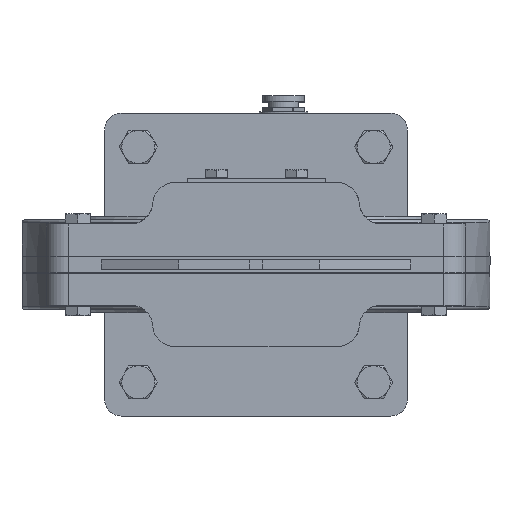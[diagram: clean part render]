
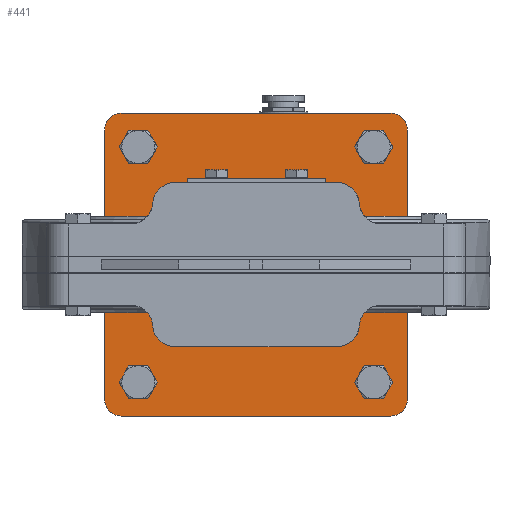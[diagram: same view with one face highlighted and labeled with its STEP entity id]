
A CAD part, front view. The second image highlights one B-rep face of the part: STEP entity #441.
In plain terms, the highlighted planar face has unit normal (0, -1, 0).
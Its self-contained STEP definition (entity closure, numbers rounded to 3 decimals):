
#441=ADVANCED_FACE('',(#14392,#14394,#14396,#14398,#14400,#14402,#14404,#14406,#14408,
#14410),#14412,.F.);
#14392=FACE_BOUND('',#14393,.T.);
#14393=EDGE_LOOP('',(#26860,#26861,#26862,#26863,#26864,#26865,#26866,#26867));
#14394=FACE_BOUND('',#14395,.T.);
#14395=EDGE_LOOP('',(#26868));
#14396=FACE_BOUND('',#14397,.T.);
#14397=EDGE_LOOP('',(#26869));
#14398=FACE_BOUND('',#14399,.T.);
#14399=EDGE_LOOP('',(#26870));
#14400=FACE_BOUND('',#14401,.T.);
#14401=EDGE_LOOP('',(#26871));
#14402=FACE_BOUND('',#14403,.T.);
#14403=EDGE_LOOP('',(#26872));
#14404=FACE_BOUND('',#14405,.T.);
#14405=EDGE_LOOP('',(#26873));
#14406=FACE_BOUND('',#14407,.T.);
#14407=EDGE_LOOP('',(#26874));
#14408=FACE_BOUND('',#14409,.T.);
#14409=EDGE_LOOP('',(#26875));
#14410=FACE_BOUND('',#14411,.T.);
#14411=EDGE_LOOP('',(#26876));
#14412=PLANE('',#14413);
#14413=AXIS2_PLACEMENT_3D('',#14414,#14415,#14416);
#14414=CARTESIAN_POINT('',(0.,687.,0.));
#14415=DIRECTION('',(0.,1.,0.));
#14416=DIRECTION('',(0.,0.,1.));
#26860=ORIENTED_EDGE('',*,*,#35363,.F.);
#26861=ORIENTED_EDGE('',*,*,#35364,.F.);
#26862=ORIENTED_EDGE('',*,*,#35365,.F.);
#26863=ORIENTED_EDGE('',*,*,#35366,.F.);
#26864=ORIENTED_EDGE('',*,*,#35367,.F.);
#26865=ORIENTED_EDGE('',*,*,#35368,.F.);
#26866=ORIENTED_EDGE('',*,*,#35369,.F.);
#26867=ORIENTED_EDGE('',*,*,#35370,.F.);
#26868=ORIENTED_EDGE('',*,*,#35371,.F.);
#26869=ORIENTED_EDGE('',*,*,#35372,.F.);
#26870=ORIENTED_EDGE('',*,*,#35373,.F.);
#26871=ORIENTED_EDGE('',*,*,#35374,.T.);
#26872=ORIENTED_EDGE('',*,*,#35375,.T.);
#26873=ORIENTED_EDGE('',*,*,#35376,.T.);
#26874=ORIENTED_EDGE('',*,*,#35377,.T.);
#26875=ORIENTED_EDGE('',*,*,#35378,.F.);
#26876=ORIENTED_EDGE('',*,*,#35379,.F.);
#35363=EDGE_CURVE('',#39224,#39225,#39226,.T.);
#35364=EDGE_CURVE('',#39227,#39224,#39228,.T.);
#35365=EDGE_CURVE('',#39229,#39227,#39230,.T.);
#35366=EDGE_CURVE('',#39231,#39229,#39232,.T.);
#35367=EDGE_CURVE('',#39233,#39231,#39234,.T.);
#35368=EDGE_CURVE('',#39235,#39233,#39236,.T.);
#35369=EDGE_CURVE('',#39237,#39235,#39238,.T.);
#35370=EDGE_CURVE('',#39225,#39237,#39239,.T.);
#35371=EDGE_CURVE('',#39240,#39240,#39241,.T.);
#35372=EDGE_CURVE('',#39242,#39242,#39243,.F.);
#35373=EDGE_CURVE('',#39244,#39244,#39245,.F.);
#35374=EDGE_CURVE('',#39246,#39246,#39247,.T.);
#35375=EDGE_CURVE('',#39248,#39248,#39249,.T.);
#35376=EDGE_CURVE('',#39250,#39250,#39251,.T.);
#35377=EDGE_CURVE('',#39252,#39252,#39253,.T.);
#35378=EDGE_CURVE('',#39254,#39254,#39255,.F.);
#35379=EDGE_CURVE('',#39256,#39256,#39257,.F.);
#39224=VERTEX_POINT('',#45431);
#39225=VERTEX_POINT('',#45432);
#39226=CIRCLE('',#45433,12.25);
#39227=VERTEX_POINT('',#45437);
#39228=LINE('',#45438,#45439);
#39229=VERTEX_POINT('',#45441);
#39230=CIRCLE('',#45442,12.25);
#39231=VERTEX_POINT('',#45446);
#39232=LINE('',#45447,#45448);
#39233=VERTEX_POINT('',#45450);
#39234=CIRCLE('',#45451,12.25);
#39235=VERTEX_POINT('',#45455);
#39236=LINE('',#45456,#45457);
#39237=VERTEX_POINT('',#45459);
#39238=CIRCLE('',#45460,12.25);
#39239=LINE('',#45464,#45465);
#39240=VERTEX_POINT('',#45467);
#39241=CIRCLE('',#45468,40.);
#39242=VERTEX_POINT('',#45472);
#39243=CIRCLE('',#45473,12.);
#39244=VERTEX_POINT('',#45477);
#39245=CIRCLE('',#45478,12.);
#39246=VERTEX_POINT('',#45482);
#39247=CIRCLE('',#45483,8.);
#39248=VERTEX_POINT('',#45487);
#39249=CIRCLE('',#45488,8.);
#39250=VERTEX_POINT('',#45492);
#39251=CIRCLE('',#45493,8.);
#39252=VERTEX_POINT('',#45497);
#39253=CIRCLE('',#45498,8.);
#39254=VERTEX_POINT('',#45502);
#39255=CIRCLE('',#45503,12.);
#39256=VERTEX_POINT('',#45507);
#39257=CIRCLE('',#45508,12.);
#45431=CARTESIAN_POINT('',(-97.75,687.,-110.));
#45432=CARTESIAN_POINT('',(-110.,687.,-97.75));
#45433=AXIS2_PLACEMENT_3D('',#45434,#45435,#45436);
#45434=CARTESIAN_POINT('',(-97.75,687.,-97.75));
#45435=DIRECTION('',(0.,1.,0.));
#45436=DIRECTION('',(0.,0.,-1.));
#45437=CARTESIAN_POINT('',(97.75,687.,-110.));
#45438=CARTESIAN_POINT('',(97.75,687.,-110.));
#45439=VECTOR('',#45440,1.);
#45440=DIRECTION('',(-1.,0.,0.));
#45441=CARTESIAN_POINT('',(110.,687.,-97.75));
#45442=AXIS2_PLACEMENT_3D('',#45443,#45444,#45445);
#45443=CARTESIAN_POINT('',(97.75,687.,-97.75));
#45444=DIRECTION('',(0.,1.,0.));
#45445=DIRECTION('',(1.,0.,0.));
#45446=CARTESIAN_POINT('',(110.,687.,97.75));
#45447=CARTESIAN_POINT('',(110.,687.,97.75));
#45448=VECTOR('',#45449,1.);
#45449=DIRECTION('',(0.,0.,-1.));
#45450=CARTESIAN_POINT('',(97.75,687.,110.));
#45451=AXIS2_PLACEMENT_3D('',#45452,#45453,#45454);
#45452=CARTESIAN_POINT('',(97.75,687.,97.75));
#45453=DIRECTION('',(0.,1.,0.));
#45454=DIRECTION('',(0.,0.,1.));
#45455=CARTESIAN_POINT('',(-97.75,687.,110.));
#45456=CARTESIAN_POINT('',(-97.75,687.,110.));
#45457=VECTOR('',#45458,1.);
#45458=DIRECTION('',(1.,0.,0.));
#45459=CARTESIAN_POINT('',(-110.,687.,97.75));
#45460=AXIS2_PLACEMENT_3D('',#45461,#45462,#45463);
#45461=CARTESIAN_POINT('',(-97.75,687.,97.75));
#45462=DIRECTION('',(0.,1.,0.));
#45463=DIRECTION('',(-1.,0.,0.));
#45464=CARTESIAN_POINT('',(-110.,687.,-97.75));
#45465=VECTOR('',#45466,1.);
#45466=DIRECTION('',(0.,0.,1.));
#45467=CARTESIAN_POINT('',(0.,687.,-40.));
#45468=AXIS2_PLACEMENT_3D('',#45469,#45470,#45471);
#45469=CARTESIAN_POINT('',(0.,687.,0.));
#45470=DIRECTION('',(0.,-1.,0.));
#45471=DIRECTION('',(0.,0.,-1.));
#45472=CARTESIAN_POINT('',(-73.467,687.,85.467));
#45473=AXIS2_PLACEMENT_3D('',#45474,#45475,#45476);
#45474=CARTESIAN_POINT('',(-85.467,687.,85.467));
#45475=DIRECTION('',(0.,1.,0.));
#45476=DIRECTION('',(1.,0.,0.));
#45477=CARTESIAN_POINT('',(-73.467,687.,-85.467));
#45478=AXIS2_PLACEMENT_3D('',#45479,#45480,#45481);
#45479=CARTESIAN_POINT('',(-85.467,687.,-85.467));
#45480=DIRECTION('',(0.,1.,0.));
#45481=DIRECTION('',(1.,0.,0.));
#45482=CARTESIAN_POINT('',(52.,687.,40.));
#45483=AXIS2_PLACEMENT_3D('',#45484,#45485,#45486);
#45484=CARTESIAN_POINT('',(60.,687.,40.));
#45485=DIRECTION('',(0.,1.,0.));
#45486=DIRECTION('',(-1.,0.,0.));
#45487=CARTESIAN_POINT('',(-68.,687.,-40.));
#45488=AXIS2_PLACEMENT_3D('',#45489,#45490,#45491);
#45489=CARTESIAN_POINT('',(-60.,687.,-40.));
#45490=DIRECTION('',(0.,1.,0.));
#45491=DIRECTION('',(-1.,0.,0.));
#45492=CARTESIAN_POINT('',(-68.,687.,40.));
#45493=AXIS2_PLACEMENT_3D('',#45494,#45495,#45496);
#45494=CARTESIAN_POINT('',(-60.,687.,40.));
#45495=DIRECTION('',(0.,1.,0.));
#45496=DIRECTION('',(-1.,0.,0.));
#45497=CARTESIAN_POINT('',(52.,687.,-40.));
#45498=AXIS2_PLACEMENT_3D('',#45499,#45500,#45501);
#45499=CARTESIAN_POINT('',(60.,687.,-40.));
#45500=DIRECTION('',(0.,1.,0.));
#45501=DIRECTION('',(-1.,0.,0.));
#45502=CARTESIAN_POINT('',(97.467,687.,-85.467));
#45503=AXIS2_PLACEMENT_3D('',#45504,#45505,#45506);
#45504=CARTESIAN_POINT('',(85.467,687.,-85.467));
#45505=DIRECTION('',(0.,1.,0.));
#45506=DIRECTION('',(1.,0.,0.));
#45507=CARTESIAN_POINT('',(97.467,687.,85.467));
#45508=AXIS2_PLACEMENT_3D('',#45509,#45510,#45511);
#45509=CARTESIAN_POINT('',(85.467,687.,85.467));
#45510=DIRECTION('',(0.,1.,0.));
#45511=DIRECTION('',(1.,0.,0.));
